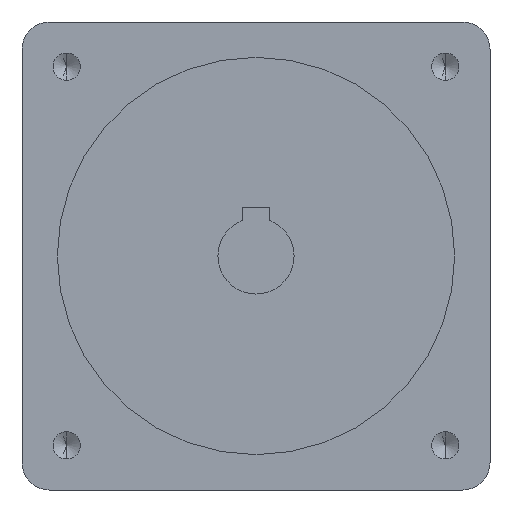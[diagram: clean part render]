
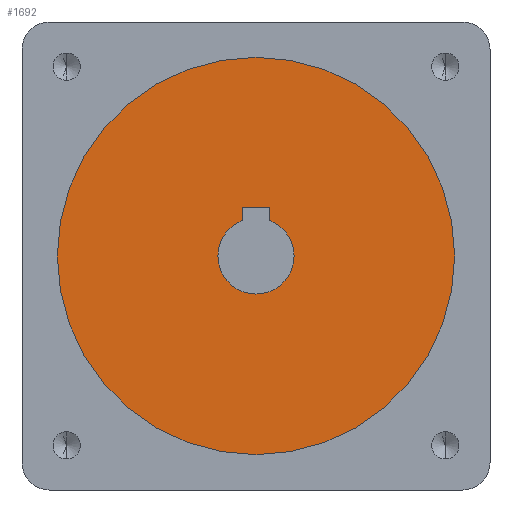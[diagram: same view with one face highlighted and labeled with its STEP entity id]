
A CAD part, front view. The second image highlights one B-rep face of the part: STEP entity #1692.
In plain terms, the highlighted planar face has unit normal (0, -1, 0).
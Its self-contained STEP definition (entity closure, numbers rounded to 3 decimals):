
#8 = AXIS2_PLACEMENT_3D ( 'NONE', #449, #203, #391 ) ;
#60 = CARTESIAN_POINT ( 'NONE',  ( 0., -64., 9. ) ) ;
#62 = AXIS2_PLACEMENT_3D ( 'NONE', #472, #491, #404 ) ;
#105 = ORIENTED_EDGE ( 'NONE', *, *, #699, .F. ) ;
#140 = CIRCLE ( 'NONE', #1496, 36.5 ) ;
#149 = CARTESIAN_POINT ( 'NONE',  ( 0., -64., -36.5 ) ) ;
#158 = EDGE_CURVE ( 'NONE', #2510, #1427, #743, .T. ) ;
#162 = EDGE_CURVE ( 'NONE', #228, #2510, #737, .T. ) ;
#183 = DIRECTION ( 'NONE',  ( 0., 0., -1. ) ) ;
#203 = DIRECTION ( 'NONE',  ( 0., -1., 0. ) ) ;
#228 = VERTEX_POINT ( 'NONE', #822 ) ;
#240 = ORIENTED_EDGE ( 'NONE', *, *, #158, .F. ) ;
#253 = DIRECTION ( 'NONE',  ( 0., 0., -1. ) ) ;
#327 = CARTESIAN_POINT ( 'NONE',  ( 2.5, -64., 9. ) ) ;
#332 = EDGE_CURVE ( 'NONE', #2077, #2277, #525, .T. ) ;
#371 = DIRECTION ( 'NONE',  ( 0., -1., 0. ) ) ;
#391 = DIRECTION ( 'NONE',  ( 0., 0., -1. ) ) ;
#404 = DIRECTION ( 'NONE',  ( 0., 0., -1. ) ) ;
#419 = DIRECTION ( 'NONE',  ( 0., 0., 1. ) ) ;
#439 = ORIENTED_EDGE ( 'NONE', *, *, #517, .T. ) ;
#449 = CARTESIAN_POINT ( 'NONE',  ( 0., -64., 0. ) ) ;
#469 = CARTESIAN_POINT ( 'NONE',  ( 0., -64., 0. ) ) ;
#472 = CARTESIAN_POINT ( 'NONE',  ( 0., -64., 0. ) ) ;
#491 = DIRECTION ( 'NONE',  ( 0., -1., 0. ) ) ;
#517 = EDGE_CURVE ( 'NONE', #2277, #2077, #140, .T. ) ;
#525 = CIRCLE ( 'NONE', #1690, 36.5 ) ;
#586 = DIRECTION ( 'NONE',  ( 0., -1., 0. ) ) ;
#643 = VERTEX_POINT ( 'NONE', #327 ) ;
#658 = CARTESIAN_POINT ( 'NONE',  ( 2.5, -64., 6.538 ) ) ;
#699 = EDGE_CURVE ( 'NONE', #2243, #228, #2513, .T. ) ;
#737 = CIRCLE ( 'NONE', #8, 7. ) ;
#741 = CARTESIAN_POINT ( 'NONE',  ( 0., -64., 0. ) ) ;
#743 = CIRCLE ( 'NONE', #62, 7. ) ;
#758 = CARTESIAN_POINT ( 'NONE',  ( -2.5, -64., 0. ) ) ;
#820 = DIRECTION ( 'NONE',  ( 0., 0., -1. ) ) ;
#822 = CARTESIAN_POINT ( 'NONE',  ( -2.5, -64., 6.538 ) ) ;
#1176 = LINE ( 'NONE', #60, #1347 ) ;
#1313 = AXIS2_PLACEMENT_3D ( 'NONE', #2398, #1346, #183 ) ;
#1346 = DIRECTION ( 'NONE',  ( 0., -1., 0. ) ) ;
#1347 = VECTOR ( 'NONE', #1422, 1000. ) ;
#1351 = EDGE_CURVE ( 'NONE', #1427, #643, #1448, .T. ) ;
#1412 = EDGE_CURVE ( 'NONE', #643, #2243, #1176, .T. ) ;
#1422 = DIRECTION ( 'NONE',  ( -1., 0., 0. ) ) ;
#1427 = VERTEX_POINT ( 'NONE', #658 ) ;
#1448 = LINE ( 'NONE', #1807, #1832 ) ;
#1496 = AXIS2_PLACEMENT_3D ( 'NONE', #741, #586, #820 ) ;
#1577 = CARTESIAN_POINT ( 'NONE',  ( 0., -64., -7. ) ) ;
#1690 = AXIS2_PLACEMENT_3D ( 'NONE', #469, #371, #253 ) ;
#1692 = ADVANCED_FACE ( 'NONE', ( #2149, #2261 ), #2569, .T. ) ;
#1722 = CARTESIAN_POINT ( 'NONE',  ( -2.5, -64., 9. ) ) ;
#1807 = CARTESIAN_POINT ( 'NONE',  ( 2.5, -64., 0. ) ) ;
#1822 = CARTESIAN_POINT ( 'NONE',  ( 0., -64., 36.5 ) ) ;
#1832 = VECTOR ( 'NONE', #419, 1000. ) ;
#1876 = EDGE_LOOP ( 'NONE', ( #439, #2008 ) ) ;
#1969 = EDGE_LOOP ( 'NONE', ( #2236, #105, #2528, #2408, #240 ) ) ;
#2008 = ORIENTED_EDGE ( 'NONE', *, *, #332, .T. ) ;
#2077 = VERTEX_POINT ( 'NONE', #1822 ) ;
#2149 = FACE_BOUND ( 'NONE', #1969, .T. ) ;
#2236 = ORIENTED_EDGE ( 'NONE', *, *, #162, .F. ) ;
#2243 = VERTEX_POINT ( 'NONE', #1722 ) ;
#2261 = FACE_OUTER_BOUND ( 'NONE', #1876, .T. ) ;
#2277 = VERTEX_POINT ( 'NONE', #149 ) ;
#2380 = DIRECTION ( 'NONE',  ( 0., 0., -1. ) ) ;
#2398 = CARTESIAN_POINT ( 'NONE',  ( 0., -64., 0. ) ) ;
#2408 = ORIENTED_EDGE ( 'NONE', *, *, #1351, .F. ) ;
#2508 = VECTOR ( 'NONE', #2380, 1000. ) ;
#2510 = VERTEX_POINT ( 'NONE', #1577 ) ;
#2513 = LINE ( 'NONE', #758, #2508 ) ;
#2528 = ORIENTED_EDGE ( 'NONE', *, *, #1412, .F. ) ;
#2569 = PLANE ( 'NONE',  #1313 ) ;
